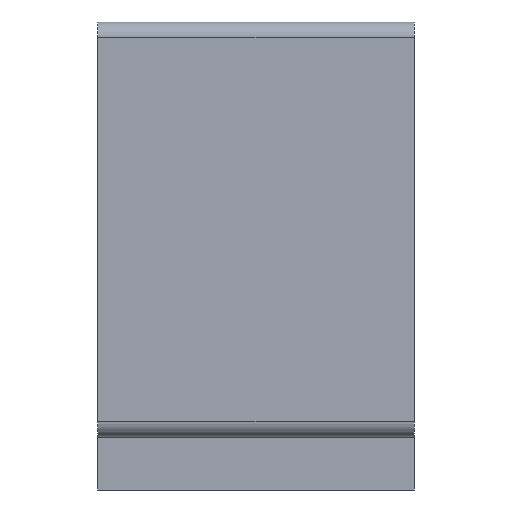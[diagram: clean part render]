
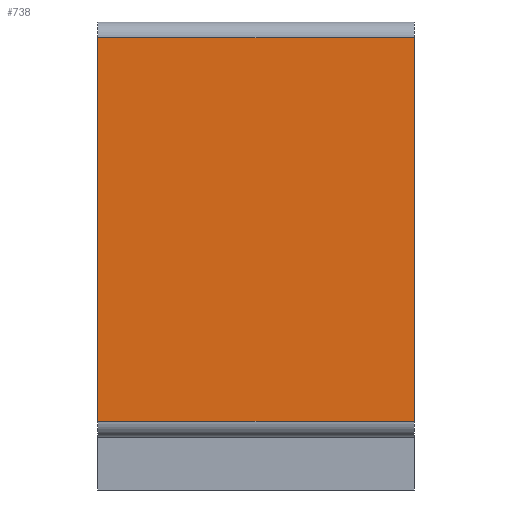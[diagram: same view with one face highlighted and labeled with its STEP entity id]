
A CAD part, left-side view. The second image highlights one B-rep face of the part: STEP entity #738.
In plain terms, the highlighted planar face has unit normal (-1, 0, 0).
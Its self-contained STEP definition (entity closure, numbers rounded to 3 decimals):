
#55=PLANE('',#808);
#80=FACE_OUTER_BOUND('',#120,.T.);
#120=EDGE_LOOP('',(#575,#576,#577,#578));
#170=LINE('',#1107,#232);
#198=LINE('',#1183,#260);
#199=LINE('',#1185,#261);
#200=LINE('',#1186,#262);
#232=VECTOR('',#881,1000.);
#260=VECTOR('',#957,10.);
#261=VECTOR('',#958,1000.);
#262=VECTOR('',#959,10.);
#339=VERTEX_POINT('',#1104);
#340=VERTEX_POINT('',#1106);
#364=VERTEX_POINT('',#1182);
#365=VERTEX_POINT('',#1184);
#408=EDGE_CURVE('',#339,#340,#170,.T.);
#446=EDGE_CURVE('',#364,#339,#198,.T.);
#447=EDGE_CURVE('',#364,#365,#199,.T.);
#448=EDGE_CURVE('',#365,#340,#200,.T.);
#575=ORIENTED_EDGE('',*,*,#446,.F.);
#576=ORIENTED_EDGE('',*,*,#447,.T.);
#577=ORIENTED_EDGE('',*,*,#448,.T.);
#578=ORIENTED_EDGE('',*,*,#408,.F.);
#738=ADVANCED_FACE('',(#80),#55,.T.);
#808=AXIS2_PLACEMENT_3D('',#1181,#955,#956);
#881=DIRECTION('',(0.,0.,1.));
#955=DIRECTION('center_axis',(-1.,0.,0.));
#956=DIRECTION('ref_axis',(0.,1.,0.));
#957=DIRECTION('',(0.,1.,0.));
#958=DIRECTION('',(0.,0.,1.));
#959=DIRECTION('',(0.,1.,0.));
#1104=CARTESIAN_POINT('',(-54.,60.,-72.6));
#1106=CARTESIAN_POINT('',(-54.,60.,72.6));
#1107=CARTESIAN_POINT('',(-54.,60.,-72.6));
#1181=CARTESIAN_POINT('Origin',(-54.,-60.,-72.6));
#1182=CARTESIAN_POINT('',(-54.,-60.,-72.6));
#1183=CARTESIAN_POINT('',(-54.,40.,-72.6));
#1184=CARTESIAN_POINT('',(-54.,-60.,72.6));
#1185=CARTESIAN_POINT('',(-54.,-60.,-72.6));
#1186=CARTESIAN_POINT('',(-54.,40.,72.6));
